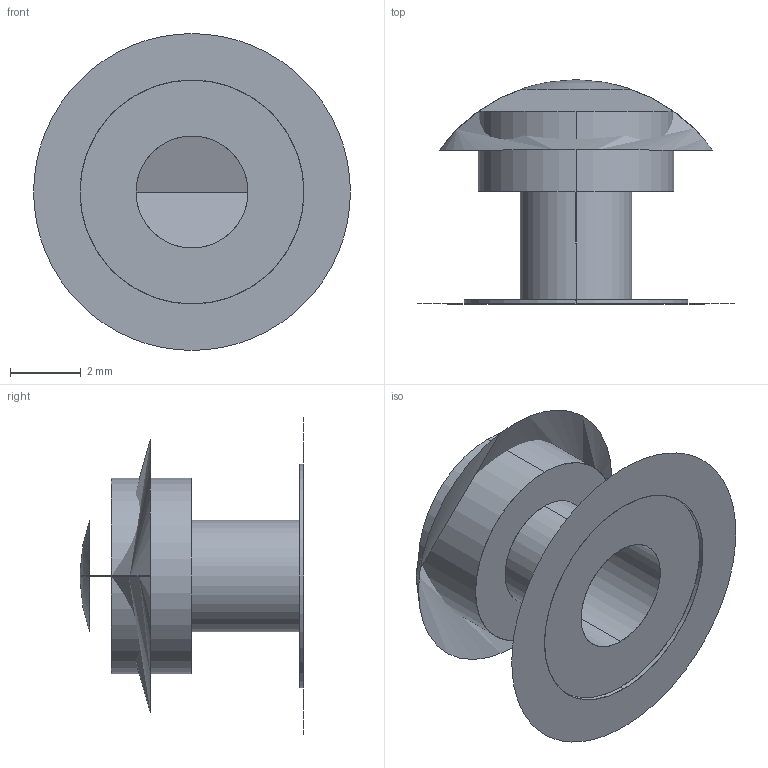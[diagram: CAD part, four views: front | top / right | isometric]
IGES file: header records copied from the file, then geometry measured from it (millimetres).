
Start section: SolidWorks IGES file using analytic representation for surfaces
Global section: file name: D:\Solid_parts\MECHeDESIGN\Bal-Tec\Catalog 105-A\Distribution\IGES\375-TBR-CB.IGS; native system: SolidWorks 2005 by SolidWorks Corporation; preprocessor: SolidWorks 2005 by SolidWorks Corporation; author: rvillegas; date: 061205.184900; units: inch
Bounding box: 8.98 x 6.35 x 8.98 mm (x, y, z)
Surface area: 212.2 mm2 (no closed solid volume)
Topology: 0 solids, 0 shells, 11 faces, 228 edges, 228 vertices
Faces by surface type: revolution 8, bspline 3
